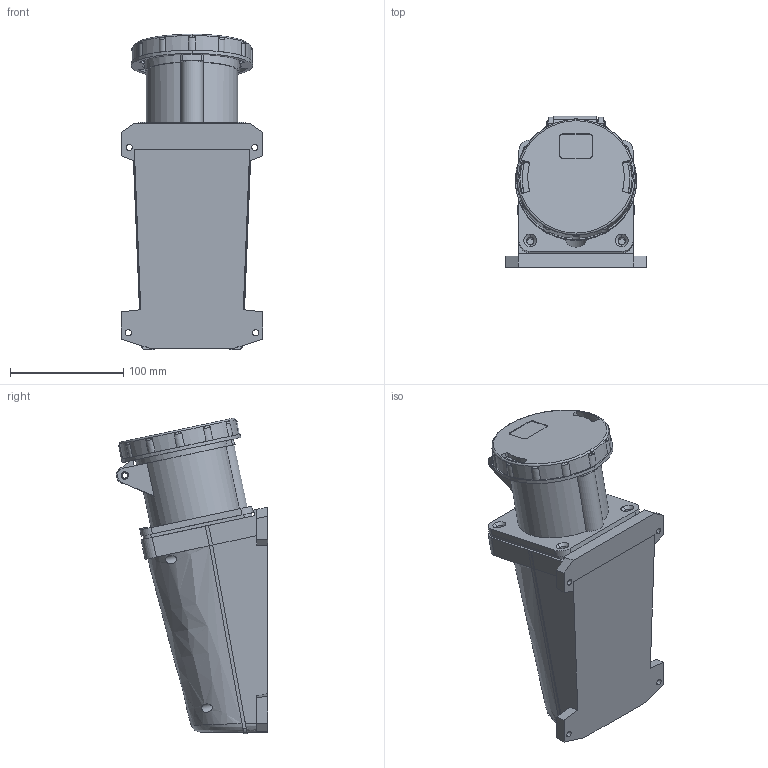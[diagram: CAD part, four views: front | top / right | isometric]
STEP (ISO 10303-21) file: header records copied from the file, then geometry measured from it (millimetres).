
FILE_DESCRIPTION (( 'STEP AP203' ), '1' );
FILE_NAME ('TLS63632.STEP', '2018-10-24T19:06:29', ( '' ), ( '' ), 'SwSTEP 2.0', 'SolidWorks 2012', '' );
FILE_SCHEMA (( 'CONFIG_CONTROL_DESIGN' ));
Length unit declared in the file: millimetre
Products named in the file (5): TLS63632; TLR63632; METALTEX 28,48; TL-63
Assembly tree (4 placements, depth 3):
  TLS63632
    TL-63
    TLR63632
      TLR63632
      METALTEX 28,48
Bounding box: 125 x 133.81 x 279.19 mm (x, y, z)
Volume: 2047144.2 mm3; surface area: 191255.5 mm2
Topology: 9 solids, 9 shells, 788 faces, 2005 edges, 1297 vertices
Faces by surface type: plane 492, cylinder 229, torus 45, bspline 14, cone 8
Entity records: 27340 total; most frequent: CARTESIAN_POINT 7675, ORIENTED_EDGE 4010, DIRECTION 3912, EDGE_CURVE 2005, LINE 1378, VECTOR 1378, VERTEX_POINT 1297, AXIS2_PLACEMENT_3D 1267
